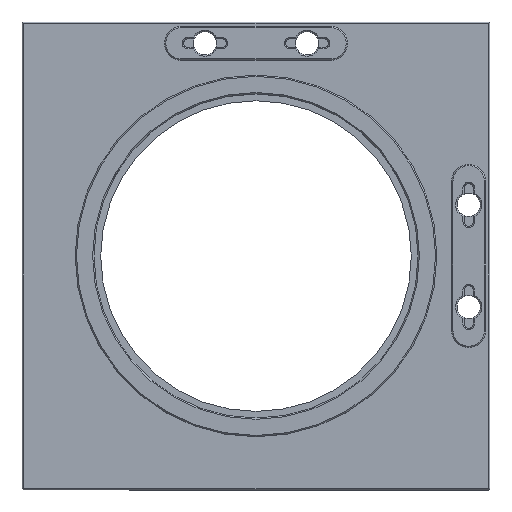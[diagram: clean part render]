
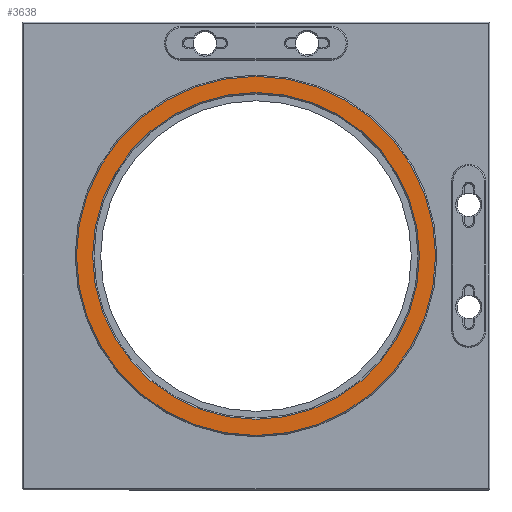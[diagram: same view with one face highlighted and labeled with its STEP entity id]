
A CAD part, top view. The second image highlights one B-rep face of the part: STEP entity #3638.
In plain terms, the highlighted planar face has unit normal (0, 0, 1).
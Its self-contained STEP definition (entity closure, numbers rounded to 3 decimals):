
#514 = CARTESIAN_POINT ( 'NONE',  ( 0., 0., 14. ) ) ;
#538 = DIRECTION ( 'NONE',  ( 1., 0., 0. ) ) ;
#614 = DIRECTION ( 'NONE',  ( 1., 0., 0. ) ) ;
#895 = PLANE ( 'NONE',  #5058 ) ;
#920 = CIRCLE ( 'NONE', #2981, 38.4 ) ;
#992 = EDGE_CURVE ( 'NONE', #1646, #1599, #3172, .T. ) ;
#1152 = EDGE_CURVE ( 'NONE', #4646, #4411, #920, .T. ) ;
#1327 = CIRCLE ( 'NONE', #3658, 42.2 ) ;
#1454 = CARTESIAN_POINT ( 'NONE',  ( 0., 0., 14. ) ) ;
#1472 = CARTESIAN_POINT ( 'NONE',  ( -38.4, 0., 14. ) ) ;
#1599 = VERTEX_POINT ( 'NONE', #3806 ) ;
#1646 = VERTEX_POINT ( 'NONE', #3725 ) ;
#1847 = EDGE_CURVE ( 'NONE', #1599, #1646, #1327, .T. ) ;
#2073 = EDGE_LOOP ( 'NONE', ( #5027, #4662 ) ) ;
#2098 = AXIS2_PLACEMENT_3D ( 'NONE', #4374, #3987, #3487 ) ;
#2173 = FACE_OUTER_BOUND ( 'NONE', #2073, .T. ) ;
#2200 = FACE_BOUND ( 'NONE', #3801, .T. ) ;
#2840 = DIRECTION ( 'NONE',  ( 1., 0., 0. ) ) ;
#2932 = CARTESIAN_POINT ( 'NONE',  ( 38.4, 0., 14. ) ) ;
#2981 = AXIS2_PLACEMENT_3D ( 'NONE', #3571, #5334, #2840 ) ;
#3172 = CIRCLE ( 'NONE', #2098, 42.2 ) ;
#3487 = DIRECTION ( 'NONE',  ( 1., 0., 0. ) ) ;
#3567 = ORIENTED_EDGE ( 'NONE', *, *, #1152, .T. ) ;
#3571 = CARTESIAN_POINT ( 'NONE',  ( 0., 0., 14. ) ) ;
#3638 = ADVANCED_FACE ( 'NONE', ( #2200, #2173 ), #895, .T. ) ;
#3658 = AXIS2_PLACEMENT_3D ( 'NONE', #1454, #4495, #614 ) ;
#3661 = EDGE_CURVE ( 'NONE', #4411, #4646, #4687, .T. ) ;
#3725 = CARTESIAN_POINT ( 'NONE',  ( 42.2, 0., 14. ) ) ;
#3801 = EDGE_LOOP ( 'NONE', ( #4406, #3567 ) ) ;
#3806 = CARTESIAN_POINT ( 'NONE',  ( -42.2, 0., 14. ) ) ;
#3874 = DIRECTION ( 'NONE',  ( 1., 0., 0. ) ) ;
#3907 = CARTESIAN_POINT ( 'NONE',  ( 0., 0., 14. ) ) ;
#3987 = DIRECTION ( 'NONE',  ( 0., 0., 1. ) ) ;
#4245 = AXIS2_PLACEMENT_3D ( 'NONE', #514, #4317, #3874 ) ;
#4317 = DIRECTION ( 'NONE',  ( 0., 0., -1. ) ) ;
#4373 = DIRECTION ( 'NONE',  ( 0., 0., 1. ) ) ;
#4374 = CARTESIAN_POINT ( 'NONE',  ( 0., 0., 14. ) ) ;
#4406 = ORIENTED_EDGE ( 'NONE', *, *, #3661, .T. ) ;
#4411 = VERTEX_POINT ( 'NONE', #2932 ) ;
#4495 = DIRECTION ( 'NONE',  ( 0., 0., 1. ) ) ;
#4646 = VERTEX_POINT ( 'NONE', #1472 ) ;
#4662 = ORIENTED_EDGE ( 'NONE', *, *, #992, .T. ) ;
#4687 = CIRCLE ( 'NONE', #4245, 38.4 ) ;
#5027 = ORIENTED_EDGE ( 'NONE', *, *, #1847, .T. ) ;
#5058 = AXIS2_PLACEMENT_3D ( 'NONE', #3907, #4373, #538 ) ;
#5334 = DIRECTION ( 'NONE',  ( 0., 0., -1. ) ) ;
